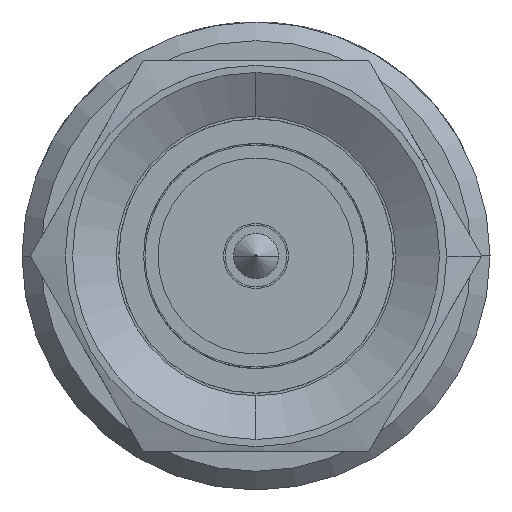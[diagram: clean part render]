
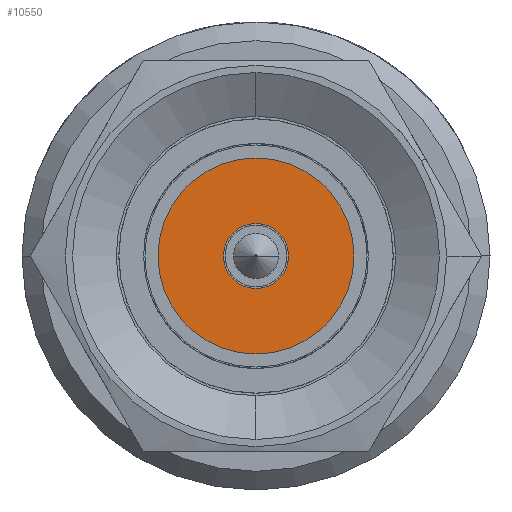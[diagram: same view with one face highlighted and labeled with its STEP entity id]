
A CAD part, front view. The second image highlights one B-rep face of the part: STEP entity #10550.
In plain terms, the highlighted planar face has unit normal (0, -1, 0).
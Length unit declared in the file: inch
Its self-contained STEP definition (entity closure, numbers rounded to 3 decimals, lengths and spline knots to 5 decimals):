
#2944=CARTESIAN_POINT('',(0.,-0.58,0.));
#2945=DIRECTION('',(0.,1.,0.));
#2946=DIRECTION('',(-1.,0.,0.));
#2947=AXIS2_PLACEMENT_3D('',#2944,#2945,#2946);
#2949=CARTESIAN_POINT('',(0.,-0.58,0.));
#2950=DIRECTION('',(0.,1.,0.));
#2951=DIRECTION('',(1.,0.,0.));
#2952=AXIS2_PLACEMENT_3D('',#2949,#2950,#2951);
#2954=CARTESIAN_POINT('',(0.,-0.58,0.));
#2955=DIRECTION('',(0.,1.,0.));
#2956=DIRECTION('',(-1.,0.,0.));
#2957=AXIS2_PLACEMENT_3D('',#2954,#2955,#2956);
#2959=CARTESIAN_POINT('',(0.,-0.58,0.));
#2960=DIRECTION('',(0.,1.,0.));
#2961=DIRECTION('',(1.,0.,0.));
#2962=AXIS2_PLACEMENT_3D('',#2959,#2960,#2961);
#7645=CARTESIAN_POINT('',(-0.026,-0.58,0.));
#7646=CARTESIAN_POINT('',(0.026,-0.58,0.));
#7647=VERTEX_POINT('',#7645);
#7648=VERTEX_POINT('',#7646);
#8825=CARTESIAN_POINT('',(-0.0785,-0.58,0.));
#8826=CARTESIAN_POINT('',(0.0785,-0.58,0.));
#8827=VERTEX_POINT('',#8825);
#8828=VERTEX_POINT('',#8826);
#10534=CARTESIAN_POINT('',(0.,-0.58,0.));
#10535=DIRECTION('',(0.,1.,0.));
#10536=DIRECTION('',(-1.,0.,0.));
#10537=AXIS2_PLACEMENT_3D('',#10534,#10535,#10536);
#10538=PLANE('',#10537);
#10539=ORIENTED_EDGE('',*,*,#10524,.T.);
#10541=ORIENTED_EDGE('',*,*,#10540,.T.);
#10542=EDGE_LOOP('',(#10539,#10541));
#10543=FACE_OUTER_BOUND('',#10542,.F.);
#10545=ORIENTED_EDGE('',*,*,#10544,.F.);
#10547=ORIENTED_EDGE('',*,*,#10546,.F.);
#10548=EDGE_LOOP('',(#10545,#10547));
#10549=FACE_BOUND('',#10548,.F.);
#10550=ADVANCED_FACE('',(#10543,#10549),#10538,.F.);
#2948=CIRCLE('',#2947,0.026);
#2953=CIRCLE('',#2952,0.026);
#2958=CIRCLE('',#2957,0.0785);
#2963=CIRCLE('',#2962,0.0785);
#10524=EDGE_CURVE('',#8827,#8828,#2958,.T.);
#10540=EDGE_CURVE('',#8828,#8827,#2963,.T.);
#10544=EDGE_CURVE('',#7647,#7648,#2948,.T.);
#10546=EDGE_CURVE('',#7648,#7647,#2953,.T.);
